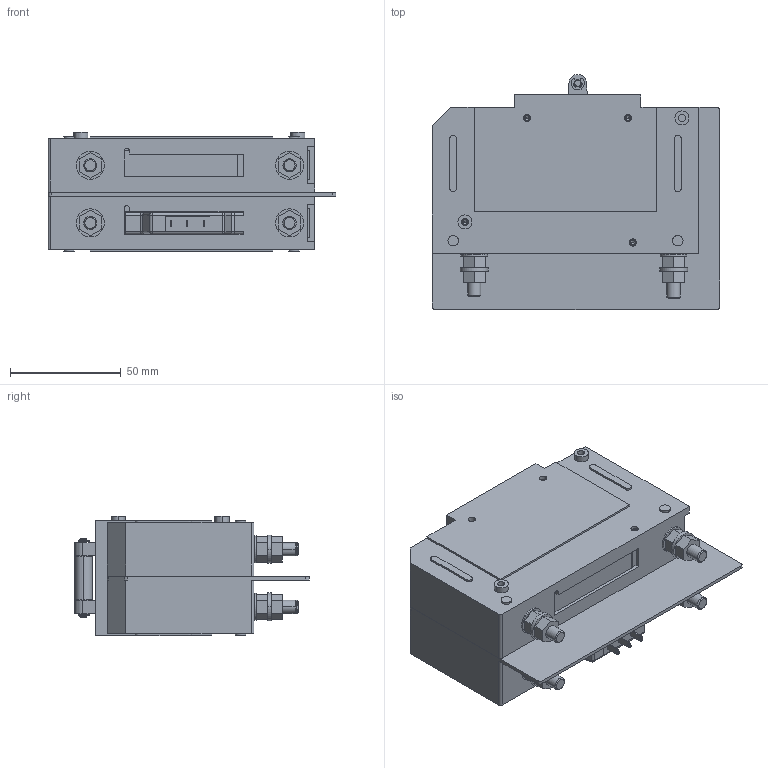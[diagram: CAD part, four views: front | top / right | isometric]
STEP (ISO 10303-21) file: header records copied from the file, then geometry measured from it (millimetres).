
FILE_DESCRIPTION((''),'2;1');
FILE_NAME('ER2-450-24-B-A1-2-BB-_SW0001','2012-08-21T',('danboyden'),(''),'PRO/ENGINEER BY PARAMETRIC TECHNOLOGY CORPORATION, 2010280','PRO/ENGINEER BY PARAMETRIC TECHNOLOGY CORPORATION, 2010280','');
FILE_SCHEMA(('CONFIG_CONTROL_DESIGN'));
Length unit declared in the file: inch
Products named in the file (1): ER2-450-24-B-A1-2-BB-_SW0001
Bounding box: 130.18 x 106.3 x 54.03 mm (x, y, z)
Volume: 415979.9 mm3; surface area: 81903.6 mm2
Topology: 9 solids, 9 shells, 1328 faces, 3593 edges, 2353 vertices
Faces by surface type: plane 777, cylinder 361, bspline 144, cone 24, sphere 14, torus 8
Entity records: 44403 total; most frequent: CARTESIAN_POINT 10568, ORIENTED_EDGE 7150, DIRECTION 6771, EDGE_CURVE 3575, VECTOR 2747, LINE 2747, VERTEX_POINT 2353, AXIS2_PLACEMENT_3D 2012
